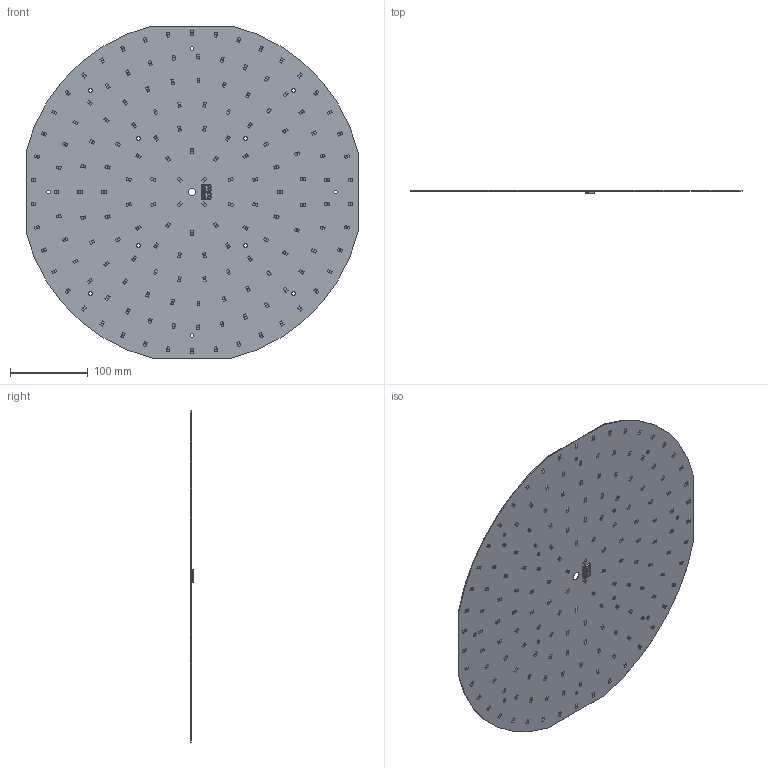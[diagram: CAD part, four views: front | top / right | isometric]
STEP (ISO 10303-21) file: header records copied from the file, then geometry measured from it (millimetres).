
FILE_DESCRIPTION(/* description */ ('Unknown'),/* implementation_level */ '2;1');
FILE_NAME(/* name */ 'RdLED 440mm 5000lm 827-865 39V&117V Opt G1',/* time_stamp */ '2023-06-02T10:58:06+02:00',/* author */ ('Unknown'),/* organization */ ('Unknown'),/* preprocessor_version */ 'ST-DEVELOPER v18.102',/* originating_system */ 'Solid Edge',/* authorisation */ 'Unknown');
FILE_SCHEMA (('AUTOMOTIVE_DESIGN {1 0 10303 214 3 1 1}'));
Length unit declared in the file: millimetre
Products named in the file (5): RdLED 440mm 5000lm 827-865 39V&117V Opt G1; PCB RdLED 440mm 2x156x2835 ; LED 2835 CW; LED 2835 WW; 4010-411-12610 Sh-000 2016-11-03
Assembly tree (315 placements, depth 2):
  RdLED 440mm 5000lm 827-865 39V&117V Opt G1
    PCB RdLED 440mm 2x156x2835 
    LED 2835 CW  x156
    LED 2835 WW  x156
    4010-411-12610 Sh-000 2016-11-03  x2
Bounding box: 428 x 4.45 x 428 mm (x, y, z)
Volume: 152160.7 mm3; surface area: 311035.4 mm2
Topology: 315 solids, 315 shells, 6205 faces, 15451 edges, 10190 vertices
Faces by surface type: plane 5700, cylinder 237, bspline 174, cone 52, torus 22, sphere 20
Full cylindrical faces by diameter (mm): 4.5 x12, 10 x1
Entity records: 24627 total; most frequent: CARTESIAN_POINT 6520, DIRECTION 2774, ORIENTED_EDGE 2706, EDGE_CURVE 1353, AXIS2_PLACEMENT_3D 993, VERTEX_POINT 863, LINE 788, VECTOR 788
